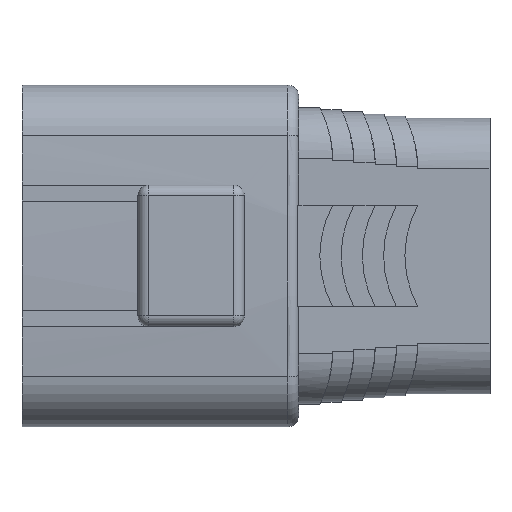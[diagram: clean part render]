
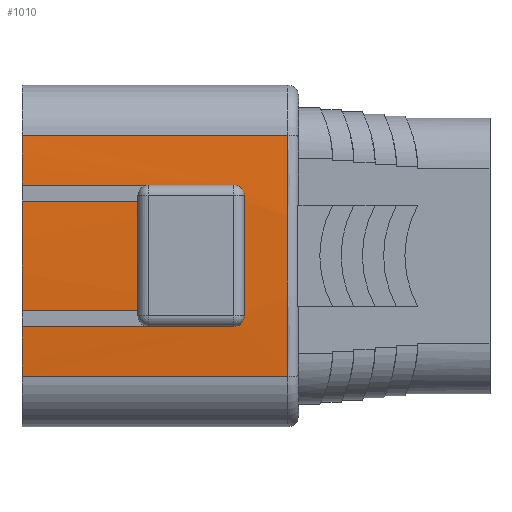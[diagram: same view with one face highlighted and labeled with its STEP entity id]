
A CAD part, top view. The second image highlights one B-rep face of the part: STEP entity #1010.
In plain terms, the highlighted cylindrical face has radius 123.2 mm (diameter 246.4 mm), a partial arc.
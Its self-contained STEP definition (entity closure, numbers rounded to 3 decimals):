
#160=CARTESIAN_POINT('Line Origine',(-4.55,3.05,7.042)) ;
#164=CARTESIAN_POINT('Vertex',(5.9,3.05,7.042)) ;
#166=CARTESIAN_POINT('Vertex',(-15.,3.05,7.042)) ;
#256=CARTESIAN_POINT('Line Origine',(-4.55,13.35,7.042)) ;
#260=CARTESIAN_POINT('Vertex',(5.9,13.35,7.042)) ;
#262=CARTESIAN_POINT('Vertex',(-15.,13.35,7.042)) ;
#445=CARTESIAN_POINT('Line Origine',(-1.39,-3.128,6.628)) ;
#449=CARTESIAN_POINT('Vertex',(-15.,-3.128,6.628)) ;
#451=CARTESIAN_POINT('Vertex',(10.,-3.128,6.628)) ;
#480=CARTESIAN_POINT('Vertex',(-15.,19.528,6.628)) ;
#483=CARTESIAN_POINT('Line Origine',(-1.39,19.528,6.628)) ;
#487=CARTESIAN_POINT('Vertex',(10.,19.528,6.628)) ;
#593=CARTESIAN_POINT('Axis2P3D Location',(10.,8.2,-116.05)) ;
#762=CARTESIAN_POINT('Axis2P3D Location',(-15.,8.2,-116.05)) ;
#771=CARTESIAN_POINT('Vertex',(-15.,14.85,6.97)) ;
#774=CARTESIAN_POINT('Axis2P3D Location',(-15.,8.2,-116.05)) ;
#812=CARTESIAN_POINT('Axis2P3D Location',(-15.,8.2,-116.05)) ;
#816=CARTESIAN_POINT('Vertex',(-15.,1.55,6.97)) ;
#947=CARTESIAN_POINT('Axis2P3D Location',(-1.39,8.2,-116.05)) ;
#952=CARTESIAN_POINT('Line Origine',(-1.39,14.85,6.97)) ;
#956=CARTESIAN_POINT('Vertex',(4.9,14.85,6.97)) ;
#960=CARTESIAN_POINT('Control Point',(5.9,13.85,7.02)) ;
#961=CARTESIAN_POINT('Control Point',(5.9,14.243,7.002)) ;
#962=CARTESIAN_POINT('Control Point',(5.691,14.64,6.982)) ;
#963=CARTESIAN_POINT('Control Point',(5.293,14.85,6.97)) ;
#964=CARTESIAN_POINT('Control Point',(4.9,14.85,6.97)) ;
#965=CARTESIAN_POINT('Vertex',(5.9,13.85,7.02)) ;
#968=CARTESIAN_POINT('Axis2P3D Location',(5.9,8.2,-116.05)) ;
#973=CARTESIAN_POINT('Axis2P3D Location',(5.9,8.2,-116.05)) ;
#977=CARTESIAN_POINT('Vertex',(5.9,2.55,7.02)) ;
#981=CARTESIAN_POINT('Control Point',(5.9,2.55,7.02)) ;
#982=CARTESIAN_POINT('Control Point',(5.9,2.157,7.002)) ;
#983=CARTESIAN_POINT('Control Point',(5.691,1.76,6.982)) ;
#984=CARTESIAN_POINT('Control Point',(5.293,1.55,6.97)) ;
#985=CARTESIAN_POINT('Control Point',(4.9,1.55,6.97)) ;
#986=CARTESIAN_POINT('Vertex',(4.9,1.55,6.97)) ;
#989=CARTESIAN_POINT('Line Origine',(-1.39,1.55,6.97)) ;
#161=DIRECTION('Vector Direction',(-1.,0.,0.)) ;
#257=DIRECTION('Vector Direction',(-1.,0.,0.)) ;
#446=DIRECTION('Vector Direction',(-1.,0.,0.)) ;
#484=DIRECTION('Vector Direction',(-1.,0.,0.)) ;
#594=DIRECTION('Axis2P3D Direction',(1.,-0.,0.)) ;
#763=DIRECTION('Axis2P3D Direction',(-1.,0.,0.)) ;
#775=DIRECTION('Axis2P3D Direction',(-1.,0.,0.)) ;
#813=DIRECTION('Axis2P3D Direction',(-1.,0.,0.)) ;
#948=DIRECTION('Axis2P3D Direction',(-1.,0.,0.)) ;
#949=DIRECTION('Axis2P3D XDirection',(0.,-0.092,0.996)) ;
#953=DIRECTION('Vector Direction',(-1.,0.,0.)) ;
#969=DIRECTION('Axis2P3D Direction',(-1.,0.,0.)) ;
#974=DIRECTION('Axis2P3D Direction',(-1.,0.,0.)) ;
#990=DIRECTION('Vector Direction',(-1.,0.,0.)) ;
#595=AXIS2_PLACEMENT_3D('Circle Axis2P3D',#593,#594,$) ;
#764=AXIS2_PLACEMENT_3D('Circle Axis2P3D',#762,#763,$) ;
#776=AXIS2_PLACEMENT_3D('Circle Axis2P3D',#774,#775,$) ;
#814=AXIS2_PLACEMENT_3D('Circle Axis2P3D',#812,#813,$) ;
#950=AXIS2_PLACEMENT_3D('Cylinder Axis2P3D',#947,#948,#949) ;
#970=AXIS2_PLACEMENT_3D('Circle Axis2P3D',#968,#969,$) ;
#975=AXIS2_PLACEMENT_3D('Circle Axis2P3D',#973,#974,$) ;
#995=ORIENTED_EDGE('',*,*,#489,.F.) ;
#996=ORIENTED_EDGE('',*,*,#778,.F.) ;
#997=ORIENTED_EDGE('',*,*,#958,.F.) ;
#998=ORIENTED_EDGE('',*,*,#967,.F.) ;
#999=ORIENTED_EDGE('',*,*,#972,.F.) ;
#1000=ORIENTED_EDGE('',*,*,#264,.T.) ;
#1001=ORIENTED_EDGE('',*,*,#766,.F.) ;
#1002=ORIENTED_EDGE('',*,*,#168,.F.) ;
#1003=ORIENTED_EDGE('',*,*,#979,.F.) ;
#1004=ORIENTED_EDGE('',*,*,#988,.F.) ;
#1005=ORIENTED_EDGE('',*,*,#993,.T.) ;
#1006=ORIENTED_EDGE('',*,*,#818,.F.) ;
#1007=ORIENTED_EDGE('',*,*,#453,.T.) ;
#1008=ORIENTED_EDGE('',*,*,#597,.F.) ;
#162=VECTOR('Line Direction',#161,1.) ;
#258=VECTOR('Line Direction',#257,1.) ;
#447=VECTOR('Line Direction',#446,1.) ;
#485=VECTOR('Line Direction',#484,1.) ;
#954=VECTOR('Line Direction',#953,1.) ;
#991=VECTOR('Line Direction',#990,1.) ;
#1010=ADVANCED_FACE('\X2\FF8AFF9FFF70FF82\X0\ \X2\FF8EFF9EFF83FF9EFF68FF70\X0\',(#1009),#951,.T.) ;
#959=B_SPLINE_CURVE_WITH_KNOTS('',4,(#960,#961,#962,#963,#964),.UNSPECIFIED.,.F.,.U.,(5,5),(0.,2.223),.UNSPECIFIED.) ;
#980=B_SPLINE_CURVE_WITH_KNOTS('',4,(#981,#982,#983,#984,#985),.UNSPECIFIED.,.F.,.U.,(5,5),(0.,2.223),.UNSPECIFIED.) ;
#596=CIRCLE('generated circle',#595,123.2) ;
#765=CIRCLE('generated circle',#764,123.2) ;
#777=CIRCLE('generated circle',#776,123.2) ;
#815=CIRCLE('generated circle',#814,123.2) ;
#971=CIRCLE('generated circle',#970,123.2) ;
#976=CIRCLE('generated circle',#975,123.2) ;
#951=CYLINDRICAL_SURFACE('generated cylinder',#950,123.2) ;
#168=EDGE_CURVE('',#165,#167,#163,.T.) ;
#264=EDGE_CURVE('',#261,#263,#259,.T.) ;
#453=EDGE_CURVE('',#450,#452,#448,.F.) ;
#489=EDGE_CURVE('',#481,#488,#486,.F.) ;
#597=EDGE_CURVE('',#488,#452,#596,.T.) ;
#766=EDGE_CURVE('',#167,#263,#765,.T.) ;
#778=EDGE_CURVE('',#772,#481,#777,.T.) ;
#818=EDGE_CURVE('',#450,#817,#815,.T.) ;
#958=EDGE_CURVE('',#957,#772,#955,.T.) ;
#967=EDGE_CURVE('',#966,#957,#959,.T.) ;
#972=EDGE_CURVE('',#261,#966,#971,.T.) ;
#979=EDGE_CURVE('',#978,#165,#976,.T.) ;
#988=EDGE_CURVE('',#987,#978,#980,.F.) ;
#993=EDGE_CURVE('',#987,#817,#992,.T.) ;
#994=EDGE_LOOP('',(#995,#996,#997,#998,#999,#1000,#1001,#1002,#1003,#1004,#1005,#1006,#1007,#1008)) ;
#1009=FACE_OUTER_BOUND('',#994,.T.) ;
#163=LINE('Line',#160,#162) ;
#259=LINE('Line',#256,#258) ;
#448=LINE('Line',#445,#447) ;
#486=LINE('Line',#483,#485) ;
#955=LINE('Line',#952,#954) ;
#992=LINE('Line',#989,#991) ;
#165=VERTEX_POINT('',#164) ;
#167=VERTEX_POINT('',#166) ;
#261=VERTEX_POINT('',#260) ;
#263=VERTEX_POINT('',#262) ;
#450=VERTEX_POINT('',#449) ;
#452=VERTEX_POINT('',#451) ;
#481=VERTEX_POINT('',#480) ;
#488=VERTEX_POINT('',#487) ;
#772=VERTEX_POINT('',#771) ;
#817=VERTEX_POINT('',#816) ;
#957=VERTEX_POINT('',#956) ;
#966=VERTEX_POINT('',#965) ;
#978=VERTEX_POINT('',#977) ;
#987=VERTEX_POINT('',#986) ;
